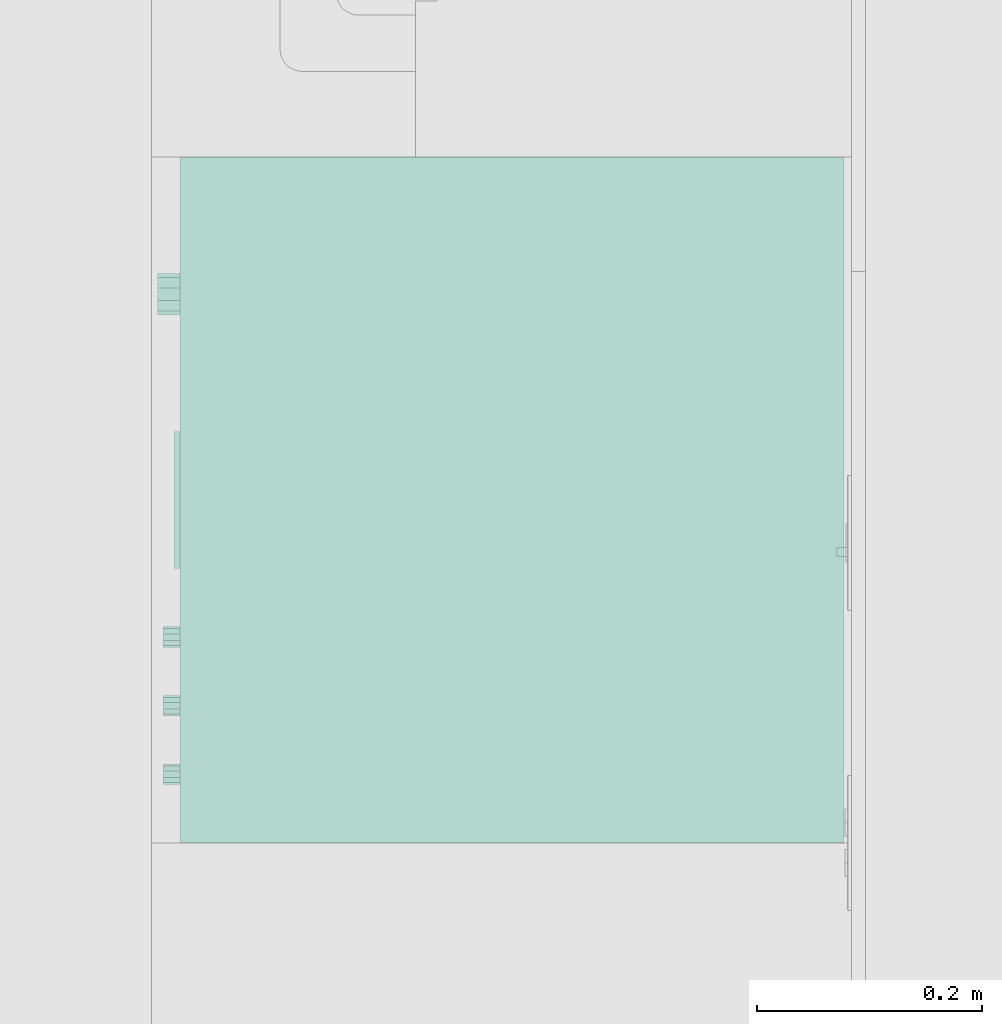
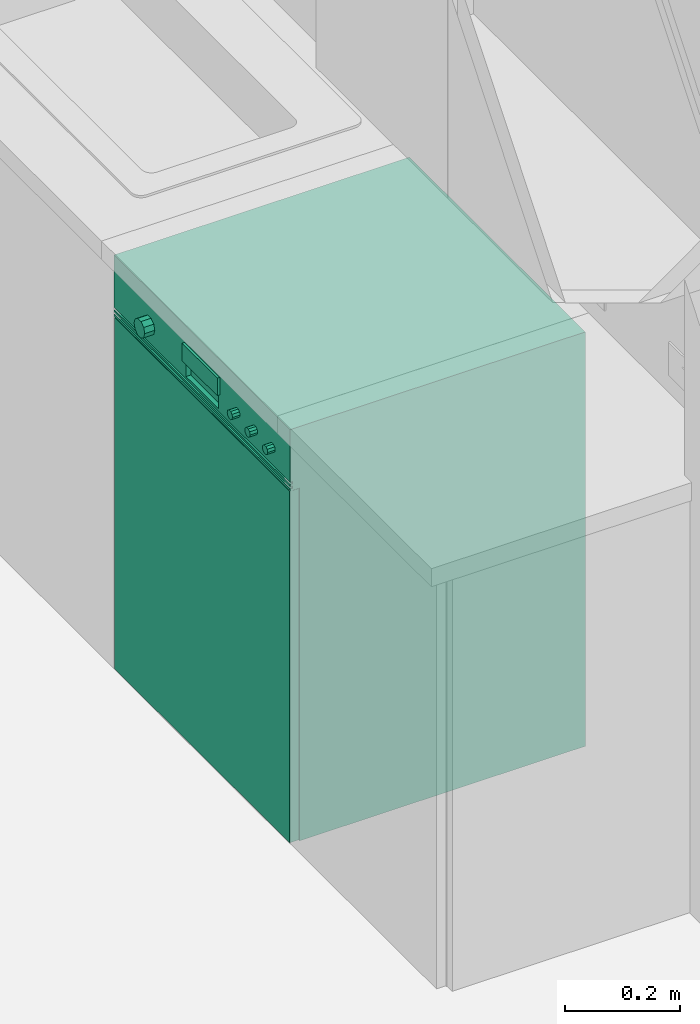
# One storey, part 35 of 103: 1 distribution flow element.
"""IFC2X3 building model written with IfcOpenShell, lengths in inches."""

import ifcopenshell
import ifcopenshell.guid

model = None  # the IFC model being written
_history = None  # IfcOwnerHistory: only IFC2X3 demands one
_inside = {}  # id of a spatial element -> (the spatial element, [elements in it])
_under = {}  # id of a project, library or spatial element -> (it, [spatial elements below it])
_declared = {}  # id of a project -> (the project, [libraries it declares])
_typed = {}  # id of a type object -> (the type object, [elements of that type])
_made_of = {}  # id of a material, layer set ... -> (it, [elements and type objects made of it])


def new_model(schema):
    """Start an empty IFC model of exactly this schema.

    Asked for "IFC4X3", IfcOpenShell would pick the latest addendum, in which some entities
    have other attributes; the version numbers below select the first issue.
    IFC2X3 requires an IfcOwnerHistory on every rooted entity: one is made here for all.
    """
    global model, _history
    if schema == "IFC4X3":
        model = ifcopenshell.file(schema_version=(4, 3, 0, 0))
    else:
        model = ifcopenshell.file(schema=schema)
    _inside.clear()
    _under.clear()
    _declared.clear()
    _typed.clear()
    _made_of.clear()
    _history = None
    if model.schema == "IFC2X3":
        org = make("IfcOrganization", Name="unknown")
        user = make(
            "IfcPersonAndOrganization",
            ThePerson=make("IfcPerson", FamilyName="unknown"),
            TheOrganization=org,
        )
        app = make(
            "IfcApplication",
            ApplicationDeveloper=org,
            Version="unknown",
            ApplicationFullName="unknown",
            ApplicationIdentifier="unknown",
        )
        _history = make(
            "IfcOwnerHistory",
            OwningUser=user,
            OwningApplication=app,
            ChangeAction="ADDED",
            CreationDate=0,
        )
    return model


def make(cls, **values):
    """One entity of the class cls with the attributes given. An attribute that is None is left unset."""
    return model.create_entity(
        cls, **{name: value for name, value in values.items() if value is not None}
    )


def entity(cls, *values):
    """Any entity or typed value of the class cls, its attributes in the order of the schema. None: left unset."""
    e = model.create_entity(cls)
    for i, value in enumerate(values):
        if value is not None:
            e[i] = value
    return e


def rooted(cls, **values):
    """An entity with a GlobalId (a new one), such as an element, a storey or a relation."""
    return make(cls, GlobalId=ifcopenshell.guid.new(), OwnerHistory=_history, **values)


def si_unit(unit_type, name, prefix=None):
    """IfcSIUnit, for example si_unit("LENGTHUNIT", "METRE", prefix="MILLI")."""
    return make("IfcSIUnit", UnitType=unit_type, Prefix=prefix, Name=name)


def converted_unit(unit_type, name, factor, base, dimensions=None, offset=None):
    """IfcConversionBasedUnit, such as the inch: factor (a typed value) times the base unit."""
    return make(
        "IfcConversionBasedUnit"
        if offset is None
        else "IfcConversionBasedUnitWithOffset",
        ConversionOffset=offset,
        Dimensions=None
        if dimensions is None
        else entity("IfcDimensionalExponents", *dimensions),
        UnitType=unit_type,
        Name=name,
        ConversionFactor=make(
            "IfcMeasureWithUnit", ValueComponent=factor, UnitComponent=base
        ),
    )


def derived_unit(unit_type, elements):
    """IfcDerivedUnit: a product of units, each with its exponent."""
    return make(
        "IfcDerivedUnit",
        Elements=[
            make("IfcDerivedUnitElement", Unit=unit, Exponent=power)
            for unit, power in elements
        ],
        UnitType=unit_type,
    )


def money_unit(currency):
    """IfcMonetaryUnit."""
    return make("IfcMonetaryUnit", Currency=currency)


def assignment(units):
    """IfcUnitAssignment: the units of a project."""
    return None if units is None else make("IfcUnitAssignment", Units=units)


def point(xyz):
    """IfcCartesianPoint."""
    return None if xyz is None else make("IfcCartesianPoint", Coordinates=xyz)


def direction(xyz):
    """IfcDirection."""
    return None if xyz is None else make("IfcDirection", DirectionRatios=xyz)


def frame(location, z_axis=None, x_axis=None):
    """IfcAxis2Placement3D, a coordinate frame: its origin and axes. An axis left out is left unset."""
    return make(
        "IfcAxis2Placement3D",
        Location=point(location),
        Axis=direction(z_axis),
        RefDirection=direction(x_axis),
    )


def origin_with_axes():
    """The frame at (0, 0, 0) with the z axis (0, 0, 1) and the x axis (1, 0, 0) written out."""
    return frame((0.0, 0.0, 0.0), z_axis=(0.0, 0.0, 1.0), x_axis=(1.0, 0.0, 0.0))


def place(relative_to, where):
    """IfcLocalPlacement: puts the frame where relative to a parent placement (None: the world)."""
    return make(
        "IfcLocalPlacement", PlacementRelTo=relative_to, RelativePlacement=where
    )


def context(
    kind, dimensions, precision=None, world=None, true_north=None, identifier=None
):
    """IfcGeometricRepresentationContext, for example the 3D "Model" context."""
    return make(
        "IfcGeometricRepresentationContext",
        ContextIdentifier=identifier,
        ContextType=kind,
        CoordinateSpaceDimension=dimensions,
        Precision=precision,
        WorldCoordinateSystem=world,
        TrueNorth=true_north,
    )


def subcontext(parent, identifier, kind, view, scale=None):
    """IfcGeometricRepresentationSubContext, for example "Body" below "Model"."""
    return make(
        "IfcGeometricRepresentationSubContext",
        ContextIdentifier=identifier,
        ContextType=kind,
        ParentContext=parent,
        TargetScale=scale,
        TargetView=view,
    )


def project(units=None, contexts=None):
    """IfcProject with its units and contexts."""
    return rooted(
        "IfcProject",
        Name="project",
        RepresentationContexts=contexts,
        UnitsInContext=assignment(units),
    )


def spatial(cls, under=None, at=None, **own):
    """A site, building, storey or space (cls), placed at a placement, below another one or the project."""
    s = rooted(cls, ObjectPlacement=at, **own)
    if under is not None:
        _under.setdefault(under.id(), (under, []))[1].append(s)
    return s


def faces_of(points, faces, orient=None, outer=None):
    """IfcFace entities. A face is a list of loops; a loop is a list of indices into points, from 0.

    orient and outer hold one flag for each loop. By default every Orientation is true, the
    first loop of a face is its IfcFaceOuterBound and the others are IfcFaceBound.
    """
    made = []
    for i, loops in enumerate(faces):
        bounds = []
        for j, loop in enumerate(loops):
            is_outer = j == 0 if outer is None else outer[i][j]
            bounds.append(
                make(
                    "IfcFaceOuterBound" if is_outer else "IfcFaceBound",
                    Bound=make("IfcPolyLoop", Polygon=[points[k] for k in loop]),
                    Orientation=True if orient is None else orient[i][j],
                )
            )
        made.append(make("IfcFace", Bounds=bounds))
    return made


def faceted_brep(points, faces, orient=None, outer=None, voids=None):
    """IfcFacetedBrep: a solid bounded by flat faces; with voids (closed shells), ...WithVoids."""
    shared = [point(p) for p in points]
    hull = make("IfcClosedShell", CfsFaces=faces_of(shared, faces, orient, outer))
    if voids is None:
        return make("IfcFacetedBrep", Outer=hull)
    return make(
        "IfcFacetedBrepWithVoids",
        Outer=hull,
        Voids=[
            make(cls, CfsFaces=faces_of(shared, fs, o, b)) for cls, fs, o, b in voids
        ],
    )


def shape(context_of_items, identifier, shape_type, items):
    """IfcShapeRepresentation: the items that make up one representation, for example the "Body"."""
    return make(
        "IfcShapeRepresentation",
        ContextOfItems=context_of_items,
        RepresentationIdentifier=identifier,
        RepresentationType=shape_type,
        Items=items,
    )


def made_of(thing, what):
    """Note that an element or type object is made of a material, layer set ...; save() writes the relation."""
    if what is not None:
        _made_of.setdefault(what.id(), (what, []))[1].append(thing)
    return thing


def type_object(cls, material=None, **own):
    """A type object (cls), such as IfcWallType, which elements share."""
    return made_of(rooted(cls, **own), material)


def element(
    cls,
    number,
    at=None,
    inside=None,
    cuts=None,
    type_object=None,
    material=None,
    context=None,
    identifier="Body",
    shape_type=None,
    held_by="IfcProductDefinitionShape",
    body=None,
    shapes=None,
    **own,
):
    """One element of the class cls, such as IfcWall. Its Tag is "e" and its number.

    at: its placement. inside: the storey or other place that contains it. cuts: it is an
    opening in that element (IfcRelVoidsElement). A single representation is given by context,
    identifier, shape_type and body (its items); several are given by shapes. held_by: the class
    of the entity that holds the representations. save() writes the other relations.
    """
    e = rooted(cls, Tag="e%d" % number, ObjectPlacement=at, **own)
    if body is not None:
        shapes = [shape(context, identifier, shape_type, body)]
    if shapes is not None:
        e.Representation = make(held_by, Representations=shapes)
    if inside is not None:
        _inside.setdefault(inside.id(), (inside, []))[1].append(e)
    if cuts is not None:
        rooted(
            "IfcRelVoidsElement", RelatingBuildingElement=cuts, RelatedOpeningElement=e
        )
    if type_object is not None:
        _typed.setdefault(type_object.id(), (type_object, []))[1].append(e)
    return made_of(e, material)


def aggregate(whole, parts):
    """IfcRelAggregates: a whole, such as a stair, and the parts it consists of."""
    return rooted("IfcRelAggregates", RelatingObject=whole, RelatedObjects=parts)


def save(model, path):
    """Write the relations noted so far, then the file.

    IfcRelAggregates (storeys below a building ...), IfcRelContainedInSpatialStructure (elements
    in a storey), IfcRelDefinesByType, IfcRelAssociatesMaterial and IfcRelDeclares: one each for
    every whole, place, type object, material and project.
    """
    for whole, parts in _under.values():
        aggregate(whole, parts)
    for where, things in _inside.values():
        rooted(
            "IfcRelContainedInSpatialStructure",
            RelatedElements=things,
            RelatingStructure=where,
        )
    for kind, things in _typed.values():
        rooted("IfcRelDefinesByType", RelatedObjects=things, RelatingType=kind)
    for what, things in _made_of.values():
        rooted("IfcRelAssociatesMaterial", RelatedObjects=things, RelatingMaterial=what)
    for by, libraries in _declared.values():
        rooted("IfcRelDeclares", RelatingContext=by, RelatedDefinitions=libraries)
    model.write(path)


model = new_model("IFC2X3")

# Units and contexts
model_context = context("Model", 3, precision=0.00039370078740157, world=origin_with_axes(), true_north=direction((0.0, 1.0)))
plan_context = context("Plan", 3, precision=0.00039370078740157, world=origin_with_axes(), true_north=direction((0.0, 1.0)))
body_context = subcontext(model_context, "Body", "Model", "MODEL_VIEW")
ifc_project = project(units=[converted_unit("LENGTHUNIT", "INCH", entity("IfcPositiveLengthMeasure", 0.0254), si_unit("LENGTHUNIT", "METRE"), dimensions=[1, 0, 0, 0, 0, 0, 0]), converted_unit("AREAUNIT", "SQUARE_FOOT", entity("IfcPositiveLengthMeasure", 0.09290304), si_unit("AREAUNIT", "SQUARE_METRE"), dimensions=[2, 0, 0, 0, 0, 0, 0]), si_unit("PLANEANGLEUNIT", "RADIAN"), si_unit("SOLIDANGLEUNIT", "STERADIAN"), money_unit("USD"), converted_unit("TIMEUNIT", "Year", entity("IfcTimeMeasure", 31557600.0), si_unit("TIMEUNIT", "SECOND"), dimensions=[0, 0, 1, 0, 0, 0, 0]), si_unit("MASSUNIT", "GRAM", prefix="KILO"), si_unit("THERMODYNAMICTEMPERATUREUNIT", "DEGREE_CELSIUS"), si_unit("LUMINOUSINTENSITYUNIT", "LUMEN"), si_unit("ENERGYUNIT", "JOULE", prefix="MEGA"), derived_unit("SPECIFICHEATCAPACITYUNIT", [(si_unit("ENERGYUNIT", "JOULE"), 1), (si_unit("MASSUNIT", "GRAM", prefix="KILO"), -1), (si_unit("THERMODYNAMICTEMPERATUREUNIT", "KELVIN"), -1)])], contexts=[model_context, plan_context])

# Site, building, storey
site_placement = place(None, origin_with_axes())
site = spatial("IfcSite", under=ifc_project, at=site_placement, Name="Site", CompositionType="ELEMENT")
building_placement = place(site_placement, origin_with_axes())
building = spatial("IfcBuilding", under=site, at=building_placement, Name="Building", CompositionType="ELEMENT")
storey_placement = place(building_placement, frame((0.0, 0.0, 127.9999999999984), z_axis=(0.0, 0.0, 1.0), x_axis=(1.0, 0.0, 0.0)))
storey = spatial("IfcBuildingStorey", under=building, at=storey_placement, Name="Second Floor", CompositionType="ELEMENT", Elevation=128.0)

# Distribution flow element
valve_type = type_object("IfcValveType", Name="Dishwasher Built-in", PredefinedType="NOTDEFINED")
distribution_flow_element_placement = place(storey_placement, frame((129.9997849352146, 241.0006628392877, 0.0), z_axis=(0.0, 0.0, 1.0), x_axis=(2.019381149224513e-06, -0.9999999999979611, 0.0)))
element("IfcDistributionFlowElement", 1, at=distribution_flow_element_placement, inside=storey, type_object=valve_type, Name="OBJ-18", context=body_context, shape_type="Brep", body=[
    faceted_brep([(0.0, 1.749999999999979, 33.71259842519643), (0.78740157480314, 1.749999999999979, 33.71259842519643), (0.78740157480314, 1.749999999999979, 34.49999999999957), (0.0, 1.749999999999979, 34.49999999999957), (0.0, 24.2499999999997, 33.71259842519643), (0.78740157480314, 24.2499999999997, 33.71259842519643), (23.21259842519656, 24.2499999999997, 33.71259842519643), (23.9999999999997, 24.2499999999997, 33.71259842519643), (23.9999999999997, 1.749999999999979, 33.71259842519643), (23.21259842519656, 1.749999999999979, 33.71259842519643), (23.21259842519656, 1.749999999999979, 34.49999999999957), (23.9999999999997, 1.749999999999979, 34.49999999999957), (23.9999999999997, 24.2499999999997, 34.49999999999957), (23.21259842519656, 24.2499999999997, 34.49999999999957), (0.78740157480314, 24.2499999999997, 34.49999999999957), (0.0, 24.2499999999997, 34.49999999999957)], [[[0, 1, 2, 3]], [[0, 4, 5, 6, 7, 8, 9, 1]], [[1, 9, 10, 2]], [[3, 2, 10, 11, 12, 13, 14, 15]], [[4, 0, 3, 15]], [[5, 4, 15, 14]], [[6, 5, 14, 13]], [[7, 6, 13, 12]], [[8, 7, 12, 11]], [[9, 8, 11, 10]]]),
    faceted_brep([(0.0, 1.749999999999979, 0.0), (0.78740157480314, 1.749999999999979, 0.0), (0.78740157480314, 1.749999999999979, 0.78740157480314), (0.0, 1.749999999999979, 0.78740157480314), (0.0, 24.2499999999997, 0.0), (0.78740157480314, 24.2499999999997, 0.0), (23.21259842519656, 24.2499999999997, 0.0), (23.9999999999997, 24.2499999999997, 0.0), (23.9999999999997, 1.749999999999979, 0.0), (23.21259842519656, 1.749999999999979, 0.0), (23.21259842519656, 1.749999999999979, 0.78740157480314), (23.9999999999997, 1.749999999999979, 0.78740157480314), (23.9999999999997, 24.2499999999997, 0.78740157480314), (23.21259842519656, 24.2499999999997, 0.78740157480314), (0.78740157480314, 24.2499999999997, 0.78740157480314), (0.0, 24.2499999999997, 0.78740157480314)], [[[0, 1, 2, 3]], [[0, 4, 5, 6, 7, 8, 9, 1]], [[1, 9, 10, 2]], [[3, 2, 10, 11, 12, 13, 14, 15]], [[4, 0, 3, 15]], [[5, 4, 15, 14]], [[6, 5, 14, 13]], [[7, 6, 13, 12]], [[8, 7, 12, 11]], [[9, 8, 11, 10]]]),
    faceted_brep([(0.0, 1.749999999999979, 0.78740157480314), (0.78740157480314, 1.749999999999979, 0.78740157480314), (0.78740157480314, 1.749999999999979, 33.71259842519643), (0.0, 1.749999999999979, 33.71259842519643), (0.0, 24.2499999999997, 0.78740157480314), (23.9999999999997, 24.2499999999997, 0.78740157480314), (23.9999999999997, 1.749999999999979, 0.78740157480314), (23.21259842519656, 1.749999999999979, 0.78740157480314), (23.21259842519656, 23.46259842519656, 0.78740157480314), (0.78740157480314, 23.46259842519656, 0.78740157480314), (0.78740157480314, 23.46259842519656, 33.71259842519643), (23.21259842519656, 23.46259842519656, 33.71259842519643), (23.21259842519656, 1.749999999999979, 33.71259842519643), (23.9999999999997, 1.749999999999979, 33.71259842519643), (23.9999999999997, 24.2499999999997, 33.71259842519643), (0.0, 24.2499999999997, 33.71259842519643)], [[[0, 1, 2, 3]], [[0, 4, 5, 6, 7, 8, 9, 1]], [[1, 9, 10, 2]], [[3, 2, 10, 11, 12, 13, 14, 15]], [[4, 0, 3, 15]], [[5, 4, 15, 14]], [[6, 5, 14, 13]], [[7, 6, 13, 12]], [[8, 7, 12, 11]], [[9, 8, 11, 10]]]),
    faceted_brep([(0.0, 1.749999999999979, 30.11304836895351), (23.9999999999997, 1.749999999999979, 30.11304836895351), (23.9999999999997, 0.9999999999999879, 30.11304836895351), (0.0, 0.9999999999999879, 30.11304836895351), (0.0, 1.749999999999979, 34.49999999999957), (23.9999999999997, 1.749999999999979, 34.49999999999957), (9.59999999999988, 1.749999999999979, 30.11304836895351), (14.39999999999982, 1.749999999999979, 30.11304836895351), (14.39999999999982, 1.749999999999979, 33.03768278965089), (9.59999999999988, 1.749999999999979, 33.03768278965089), (23.9999999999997, 0.9999999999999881, 34.49999999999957), (0.0, 0.9999999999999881, 34.49999999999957), (9.59999999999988, 0.9999999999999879, 30.11304836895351), (9.59999999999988, 0.9999999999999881, 33.03768278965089), (14.39999999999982, 0.9999999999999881, 33.03768278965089), (14.39999999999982, 0.9999999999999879, 30.11304836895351)], [[[0, 1, 2, 3]], [[0, 4, 5, 1], [6, 7, 8, 9]], [[1, 5, 10, 2]], [[3, 2, 10, 11], [12, 13, 14, 15]], [[4, 0, 3, 11]], [[5, 4, 11, 10]], [[7, 6, 12, 15]], [[8, 7, 15, 14]], [[9, 8, 14, 13]], [[6, 9, 13, 12]]]),
    faceted_brep([(0.0, 1.749999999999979, 29.38188976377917), (23.9999999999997, 1.749999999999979, 29.38188976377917), (23.9999999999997, 1.187499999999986, 29.38188976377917), (0.0, 1.187499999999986, 29.38188976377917), (0.0, 1.749999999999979, 30.11304836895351), (23.9999999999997, 1.749999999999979, 30.11304836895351), (23.9999999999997, 1.187499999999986, 30.11304836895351), (0.0, 1.187499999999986, 30.11304836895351)], [[[0, 1, 2, 3]], [[0, 4, 5, 1]], [[1, 5, 6, 2]], [[3, 2, 6, 7]], [[4, 0, 3, 7]], [[5, 4, 7, 6]]]),
    faceted_brep([(0.0, 1.187499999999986, 29.38188976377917), (23.9999999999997, 1.187499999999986, 29.38188976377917), (23.9999999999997, 0.9999999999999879, 29.38188976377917), (0.0, 0.9999999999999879, 29.38188976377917), (0.0, 1.187499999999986, 29.56467941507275), (23.9999999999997, 1.187499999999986, 29.56467941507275), (23.9999999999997, 0.9999999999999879, 29.56467941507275), (0.0, 0.9999999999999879, 29.56467941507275)], [[[0, 1, 2, 3]], [[0, 4, 5, 1]], [[1, 5, 6, 2]], [[3, 2, 6, 7]], [[4, 0, 3, 7]], [[5, 4, 7, 6]]]),
    faceted_brep([(0.0, 1.187499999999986, 29.74746906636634), (23.9999999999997, 1.187499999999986, 29.74746906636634), (23.9999999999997, 0.9999999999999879, 29.74746906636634), (0.0, 0.9999999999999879, 29.74746906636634), (0.0, 1.187499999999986, 29.93025871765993), (23.9999999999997, 1.187499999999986, 29.93025871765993), (23.9999999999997, 0.9999999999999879, 29.93025871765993), (0.0, 0.9999999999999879, 29.93025871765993)], [[[0, 1, 2, 3]], [[0, 4, 5, 1]], [[1, 5, 6, 2]], [[3, 2, 6, 7]], [[4, 0, 3, 7]], [[5, 4, 7, 6]]]),
    faceted_brep([(9.59999999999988, 1.749999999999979, 30.11304836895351), (14.39999999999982, 1.749999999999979, 30.11304836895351), (14.39999999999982, 1.374999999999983, 30.11304836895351), (9.59999999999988, 1.374999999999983, 30.11304836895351), (9.59999999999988, 1.749999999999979, 33.03768278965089), (14.39999999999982, 1.749999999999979, 33.03768278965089), (14.39999999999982, 1.374999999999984, 33.03768278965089), (9.59999999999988, 1.374999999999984, 33.03768278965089)], [[[0, 1, 2, 3]], [[0, 4, 5, 1]], [[1, 5, 6, 2]], [[3, 2, 6, 7]], [[4, 0, 3, 7]], [[5, 4, 7, 6]]]),
    faceted_brep([(9.59999999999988, 1.374999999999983, 30.11304836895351), (14.39999999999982, 1.374999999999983, 30.11304836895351), (14.39999999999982, 0.999999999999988, 30.11304836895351), (9.59999999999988, 0.999999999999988, 30.11304836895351), (9.59999999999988, 1.374999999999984, 33.03768278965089), (14.39999999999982, 1.374999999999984, 33.03768278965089), (9.796850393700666, 1.374999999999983, 30.3098987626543), (14.20314960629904, 1.374999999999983, 30.3098987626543), (14.20314960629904, 1.374999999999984, 32.8408323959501), (9.796850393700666, 1.374999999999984, 32.8408323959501), (14.39999999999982, 0.9999999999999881, 33.03768278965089), (9.59999999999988, 0.9999999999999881, 33.03768278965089), (9.796850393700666, 0.999999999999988, 30.3098987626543), (9.796850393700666, 0.9999999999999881, 32.8408323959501), (14.20314960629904, 0.9999999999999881, 32.8408323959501), (14.20314960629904, 0.999999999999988, 30.3098987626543)], [[[0, 1, 2, 3]], [[0, 4, 5, 1], [6, 7, 8, 9]], [[1, 5, 10, 2]], [[3, 2, 10, 11], [12, 13, 14, 15]], [[4, 0, 3, 11]], [[5, 4, 11, 10]], [[7, 6, 12, 15]], [[8, 7, 15, 14]], [[9, 8, 14, 13]], [[6, 9, 13, 12]]]),
    faceted_brep([(9.59999999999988, 0.999999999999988, 31.5753655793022), (14.39999999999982, 0.999999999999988, 31.5753655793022), (14.39999999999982, 0.803149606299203, 31.5753655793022), (9.59999999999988, 0.803149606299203, 31.5753655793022), (9.59999999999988, 0.9999999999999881, 33.03768278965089), (14.39999999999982, 0.9999999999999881, 33.03768278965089), (14.39999999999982, 0.8031496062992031, 33.03768278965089), (9.59999999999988, 0.8031496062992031, 33.03768278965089)], [[[0, 1, 2, 3]], [[0, 4, 5, 1]], [[1, 5, 6, 2]], [[3, 2, 6, 7]], [[4, 0, 3, 7]], [[5, 4, 7, 6]]]),
    faceted_brep([(5.391519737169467, 0.999999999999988, 31.14560133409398), (5.025940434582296, 0.999999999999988, 30.87999242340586), (4.574059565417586, 0.999999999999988, 30.87999242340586), (4.208480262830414, 0.999999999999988, 31.14560133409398), (4.068841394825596, 0.999999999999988, 31.5753655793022), (4.208480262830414, 0.999999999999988, 32.00512982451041), (4.574059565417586, 0.999999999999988, 32.27073873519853), (5.025940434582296, 0.999999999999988, 32.27073873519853), (5.391519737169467, 0.999999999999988, 32.00512982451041), (5.531158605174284, 0.999999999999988, 31.5753655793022), (5.391519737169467, 0.212598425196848, 31.14560133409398), (5.025940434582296, 0.212598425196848, 30.87999242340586), (4.574059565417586, 0.212598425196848, 30.87999242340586), (4.208480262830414, 0.212598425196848, 31.14560133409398), (4.068841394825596, 0.212598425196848, 31.5753655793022), (4.208480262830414, 0.212598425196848, 32.00512982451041), (4.574059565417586, 0.212598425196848, 32.27073873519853), (5.025940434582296, 0.212598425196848, 32.27073873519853), (5.391519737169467, 0.212598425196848, 32.00512982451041), (5.531158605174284, 0.212598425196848, 31.5753655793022)], [[[0, 1, 2, 3, 4, 5, 6, 7, 8, 9]], [[1, 0, 10, 11]], [[2, 1, 11, 12]], [[3, 2, 12, 13]], [[4, 3, 13, 14]], [[5, 4, 14, 15]], [[6, 5, 15, 16]], [[7, 6, 16, 17]], [[8, 7, 17, 18]], [[9, 8, 18, 19]], [[0, 9, 19, 10]], [[10, 19, 18, 17, 16, 15, 14, 13, 12, 11]]]),
    faceted_brep([(17.09575986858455, 0.999999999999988, 31.36048345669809), (16.91297021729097, 0.999999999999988, 31.22767900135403), (16.68702978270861, 0.999999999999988, 31.22767900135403), (16.50424013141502, 0.999999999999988, 31.36048345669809), (16.43442069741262, 0.999999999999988, 31.5753655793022), (16.50424013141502, 0.999999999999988, 31.79024770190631), (16.68702978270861, 0.999999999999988, 31.92305215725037), (16.91297021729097, 0.999999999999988, 31.92305215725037), (17.09575986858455, 0.999999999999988, 31.79024770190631), (17.16557930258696, 0.999999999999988, 31.5753655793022), (17.09575986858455, 0.409448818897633, 31.36048345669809), (16.91297021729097, 0.409448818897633, 31.22767900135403), (16.68702978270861, 0.409448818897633, 31.22767900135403), (16.50424013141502, 0.409448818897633, 31.36048345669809), (16.43442069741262, 0.409448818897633, 31.5753655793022), (16.50424013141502, 0.409448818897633, 31.79024770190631), (16.68702978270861, 0.409448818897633, 31.92305215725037), (16.91297021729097, 0.409448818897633, 31.92305215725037), (17.09575986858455, 0.409448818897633, 31.79024770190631), (17.16557930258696, 0.409448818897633, 31.5753655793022)], [[[0, 1, 2, 3, 4, 5, 6, 7, 8, 9]], [[1, 0, 10, 11]], [[2, 1, 11, 12]], [[3, 2, 12, 13]], [[4, 3, 13, 14]], [[5, 4, 14, 15]], [[6, 5, 15, 16]], [[7, 6, 16, 17]], [[8, 7, 17, 18]], [[9, 8, 18, 19]], [[0, 9, 19, 10]], [[10, 19, 18, 17, 16, 15, 14, 13, 12, 11]]]),
    faceted_brep([(19.49575986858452, 0.999999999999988, 31.36048345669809), (19.31297021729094, 0.999999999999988, 31.22767900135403), (19.08702978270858, 0.999999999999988, 31.22767900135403), (18.904240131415, 0.999999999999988, 31.36048345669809), (18.83442069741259, 0.999999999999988, 31.5753655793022), (18.904240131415, 0.999999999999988, 31.79024770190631), (19.08702978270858, 0.999999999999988, 31.92305215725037), (19.31297021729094, 0.999999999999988, 31.92305215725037), (19.49575986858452, 0.999999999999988, 31.79024770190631), (19.56557930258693, 0.999999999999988, 31.5753655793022), (19.49575986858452, 0.409448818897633, 31.36048345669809), (19.31297021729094, 0.409448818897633, 31.22767900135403), (19.08702978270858, 0.409448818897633, 31.22767900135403), (18.904240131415, 0.409448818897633, 31.36048345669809), (18.83442069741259, 0.409448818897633, 31.5753655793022), (18.904240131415, 0.409448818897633, 31.79024770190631), (19.08702978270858, 0.409448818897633, 31.92305215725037), (19.31297021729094, 0.409448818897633, 31.92305215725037), (19.49575986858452, 0.409448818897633, 31.79024770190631), (19.56557930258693, 0.409448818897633, 31.5753655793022)], [[[0, 1, 2, 3, 4, 5, 6, 7, 8, 9]], [[1, 0, 10, 11]], [[2, 1, 11, 12]], [[3, 2, 12, 13]], [[4, 3, 13, 14]], [[5, 4, 14, 15]], [[6, 5, 15, 16]], [[7, 6, 16, 17]], [[8, 7, 17, 18]], [[9, 8, 18, 19]], [[0, 9, 19, 10]], [[10, 19, 18, 17, 16, 15, 14, 13, 12, 11]]]),
    faceted_brep([(21.89575986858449, 0.999999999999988, 31.36048345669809), (21.71297021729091, 0.999999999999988, 31.22767900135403), (21.48702978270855, 0.999999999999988, 31.22767900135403), (21.30424013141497, 0.999999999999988, 31.36048345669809), (21.23442069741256, 0.999999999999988, 31.5753655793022), (21.30424013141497, 0.999999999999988, 31.79024770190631), (21.48702978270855, 0.999999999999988, 31.92305215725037), (21.71297021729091, 0.999999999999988, 31.92305215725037), (21.89575986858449, 0.999999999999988, 31.79024770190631), (21.9655793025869, 0.999999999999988, 31.5753655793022), (21.89575986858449, 0.409448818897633, 31.36048345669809), (21.71297021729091, 0.409448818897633, 31.22767900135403), (21.48702978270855, 0.409448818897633, 31.22767900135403), (21.30424013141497, 0.409448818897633, 31.36048345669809), (21.23442069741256, 0.409448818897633, 31.5753655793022), (21.30424013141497, 0.409448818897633, 31.79024770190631), (21.48702978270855, 0.409448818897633, 31.92305215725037), (21.71297021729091, 0.409448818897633, 31.92305215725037), (21.89575986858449, 0.409448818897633, 31.79024770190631), (21.9655793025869, 0.409448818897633, 31.5753655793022)], [[[0, 1, 2, 3, 4, 5, 6, 7, 8, 9]], [[1, 0, 10, 11]], [[2, 1, 11, 12]], [[3, 2, 12, 13]], [[4, 3, 13, 14]], [[5, 4, 14, 15]], [[6, 5, 15, 16]], [[7, 6, 16, 17]], [[8, 7, 17, 18]], [[9, 8, 18, 19]], [[0, 9, 19, 10]], [[10, 19, 18, 17, 16, 15, 14, 13, 12, 11]]]),
    faceted_brep([(0.05905511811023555, 1.749999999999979, 0.0590551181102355), (23.94094488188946, 1.749999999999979, 0.0590551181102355), (23.94094488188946, 0.9999999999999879, 0.05905511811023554), (0.05905511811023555, 0.9999999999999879, 0.05905511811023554), (0.05905511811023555, 1.749999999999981, 29.32283464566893), (23.94094488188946, 1.749999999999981, 29.32283464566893), (23.94094488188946, 0.9999999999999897, 29.32283464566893), (0.05905511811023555, 0.9999999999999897, 29.32283464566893)], [[[0, 1, 2, 3]], [[0, 4, 5, 1]], [[1, 5, 6, 2]], [[3, 2, 6, 7]], [[4, 0, 3, 7]], [[5, 4, 7, 6]]]),
])

save(model, "model.ifc")
